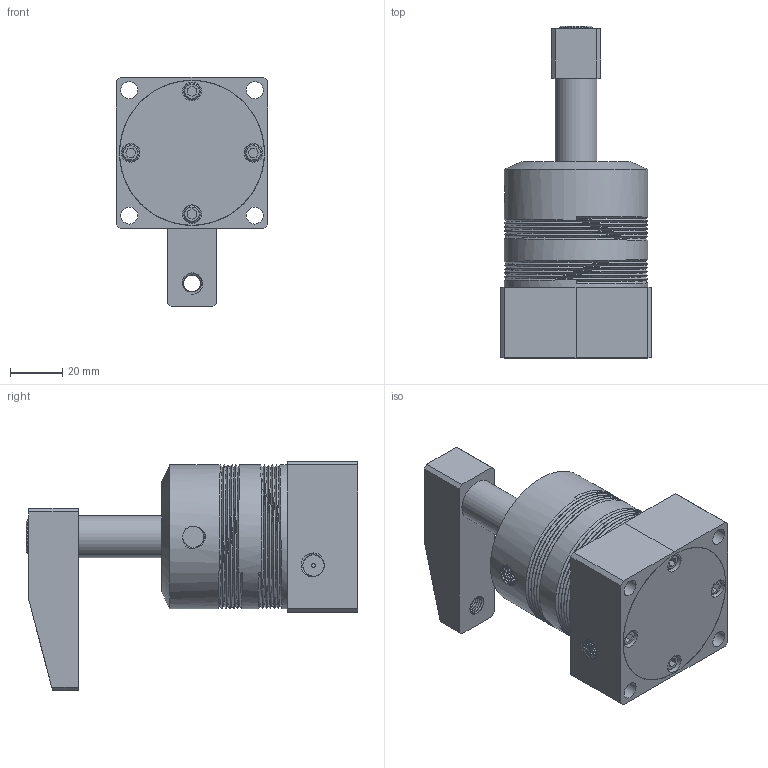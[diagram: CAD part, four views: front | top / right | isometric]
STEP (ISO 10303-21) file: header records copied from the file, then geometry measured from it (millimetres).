
FILE_DESCRIPTION(/* description */ (''),/* implementation_level */ '2;1');
FILE_NAME(/* name */ 'D:\Vault_2016\Projekty\STRONA\Pneumatic\Line ; Pipe connecct - type\cas-40s_asm\CAS-40SL_OTWARTY.stp',/* time_stamp */ '2019-01-17T11:37:53+01:00',/* author */ ('user'),/* organization */ (''),/* preprocessor_version */ 'ST-DEVELOPER v17.2',/* originating_system */ 'Autodesk Inventor 2019',/* authorisation */ '');
FILE_SCHEMA (('AUTOMOTIVE_DESIGN { 1 0 10303 214 3 1 1 }'));
Products named in the file (7): CAS-40SL_OTWARTY; CAS-40BT; CAS-40HSG; CAS-40HG; M4; CAS-32SYB; M8LC
Assembly tree (9 placements, depth 2):
  CAS-40SL_OTWARTY
    CAS-40BT
    CAS-40HSG
    CAS-40HG
    M4  x4
    CAS-32SYB
    M8LC
Bounding box: 58 x 127 x 88 mm (x, y, z)
Volume: 182415.4 mm3; surface area: 61764.4 mm2
Topology: 11 solids, 11 shells, 450 faces, 1239 edges, 838 vertices
Faces by surface type: cylinder 205, plane 110, bspline 105, cone 25, torus 5
Full cylindrical faces by diameter (mm): 1 x1, 1.5 x1, 3.2 x4, 4 x76, 4.5 x4, 6.5 x10, 7.2 x4, 8 x33, 8.2 x16, 9 x1, 12 x3, 12.98 x1, 14 x1, 16 x3, 34.88 x1, 40 x4, 55 x9, 55.5 x2
Entity records: 37492 total; most frequent: CARTESIAN_POINT 30221, ORIENTED_EDGE 1638, DIRECTION 1151, EDGE_CURVE 819, VERTEX_POINT 556, AXIS2_PLACEMENT_3D 435, B_SPLINE_CURVE_WITH_KNOTS 354, EDGE_LOOP 350
